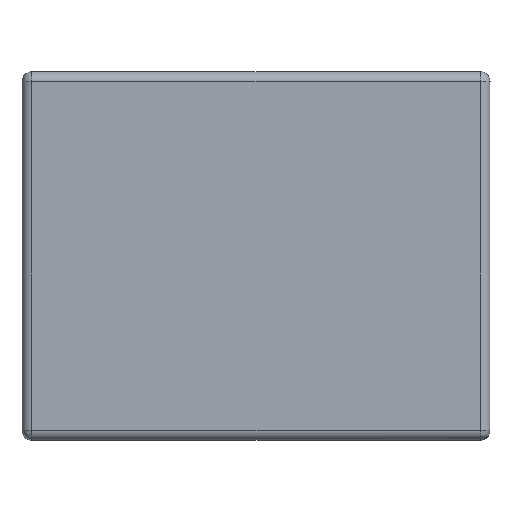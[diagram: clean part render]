
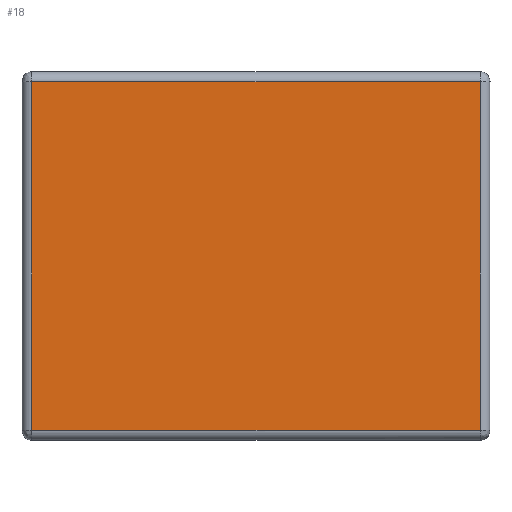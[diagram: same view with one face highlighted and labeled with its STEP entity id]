
A CAD part, top view. The second image highlights one B-rep face of the part: STEP entity #18.
In plain terms, the highlighted planar face has unit normal (0, 0, 1).
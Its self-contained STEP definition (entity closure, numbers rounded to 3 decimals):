
#18=ADVANCED_FACE('',(#44),#332,.T.);
#44=FACE_OUTER_BOUND('',#70,.T.);
#70=EDGE_LOOP('',(#108,#109,#110,#111));
#108=ORIENTED_EDGE('',*,*,#207,.F.);
#109=ORIENTED_EDGE('',*,*,#205,.F.);
#110=ORIENTED_EDGE('',*,*,#206,.F.);
#111=ORIENTED_EDGE('',*,*,#204,.F.);
#204=EDGE_CURVE('',#300,#301,#276,.T.);
#205=EDGE_CURVE('',#302,#303,#277,.T.);
#206=EDGE_CURVE('',#301,#302,#278,.T.);
#207=EDGE_CURVE('',#303,#300,#279,.T.);
#276=B_SPLINE_CURVE_WITH_KNOTS('',1,(#668,#669),.UNSPECIFIED.,.F.,.F.,(2,
2),(10.,360.),.UNSPECIFIED.);
#277=B_SPLINE_CURVE_WITH_KNOTS('',1,(#670,#671),.UNSPECIFIED.,.F.,.F.,(2,
2),(10.,360.),.UNSPECIFIED.);
#278=B_SPLINE_CURVE_WITH_KNOTS('',1,(#672,#673),.UNSPECIFIED.,.F.,.F.,(2,
2),(10.,460.),.UNSPECIFIED.);
#279=B_SPLINE_CURVE_WITH_KNOTS('',1,(#674,#675),.UNSPECIFIED.,.F.,.F.,(2,
2),(10.,460.),.UNSPECIFIED.);
#300=VERTEX_POINT('',#628);
#301=VERTEX_POINT('',#629);
#302=VERTEX_POINT('',#630);
#303=VERTEX_POINT('',#631);
#332=PLANE('',#426);
#426=AXIS2_PLACEMENT_3D('',#468,#447,$);
#447=DIRECTION('',(0.,0.,1.));
#468=CARTESIAN_POINT('',(-235.,185.,31.));
#628=CARTESIAN_POINT('',(-225.,-175.,31.));
#629=CARTESIAN_POINT('',(-225.,175.,31.));
#630=CARTESIAN_POINT('',(225.,175.,31.));
#631=CARTESIAN_POINT('',(225.,-175.,31.));
#668=CARTESIAN_POINT('',(-225.,-175.,31.));
#669=CARTESIAN_POINT('',(-225.,175.,31.));
#670=CARTESIAN_POINT('',(225.,175.,31.));
#671=CARTESIAN_POINT('',(225.,-175.,31.));
#672=CARTESIAN_POINT('',(-225.,175.,31.));
#673=CARTESIAN_POINT('',(225.,175.,31.));
#674=CARTESIAN_POINT('',(225.,-175.,31.));
#675=CARTESIAN_POINT('',(-225.,-175.,31.));
